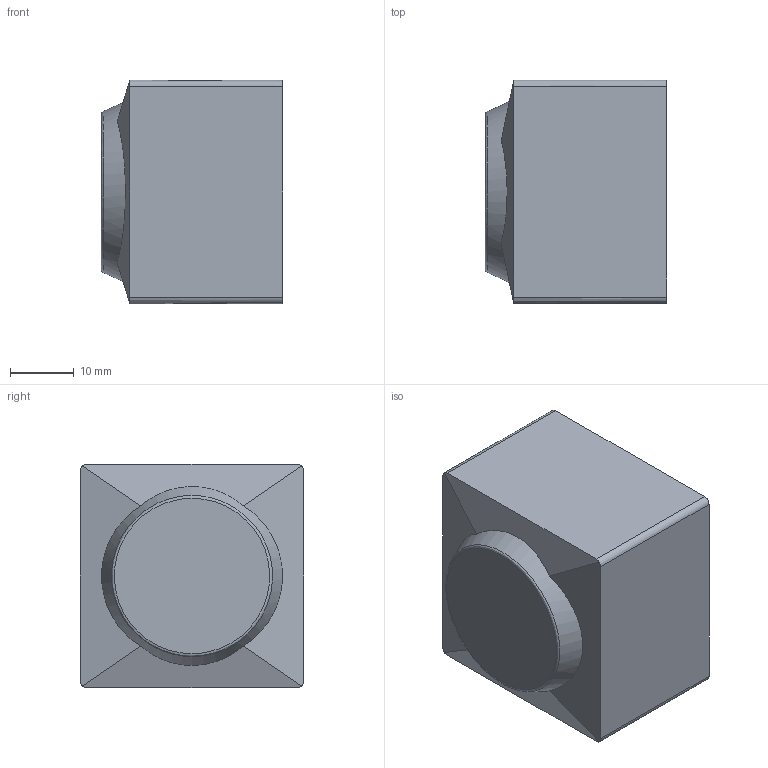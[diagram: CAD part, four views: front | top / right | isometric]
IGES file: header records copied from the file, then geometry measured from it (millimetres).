
Global section: file name: DR_PR14-3030; native system: Autodesk Inventor 2015; preprocessor: unknown; author: Administrator; date: 20221214.130726; units: millimetre
Bounding box: 28.5 x 35 x 35 mm (x, y, z)
Volume: 12979.6 mm3; surface area: 8625.5 mm2
Topology: 1 solids, 1 shells, 21 faces, 55 edges, 37 vertices
Faces by surface type: bspline 21
